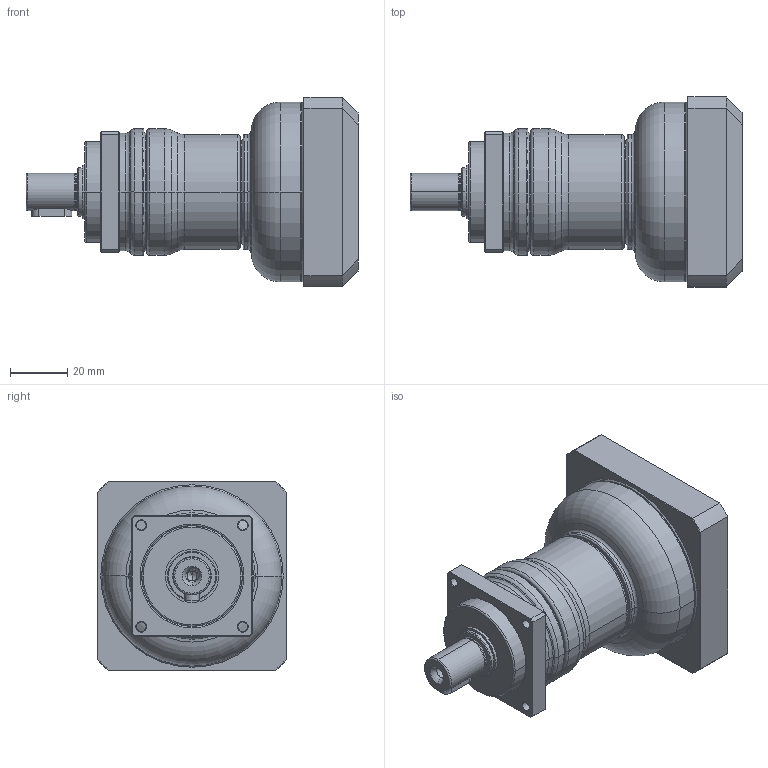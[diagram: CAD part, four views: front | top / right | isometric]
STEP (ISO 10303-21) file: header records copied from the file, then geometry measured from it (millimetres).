
FILE_DESCRIPTION((''),'2;1');
FILE_NAME('PA2-042_2ST_14-P0411300101_ASM','2016-05-06T',('d01943'),(''),'PRO/ENGINEER BY PARAMETRIC TECHNOLOGY CORPORATION, 2008410','PRO/ENGINEER BY PARAMETRIC TECHNOLOGY CORPORATION, 2008410','');
FILE_SCHEMA(('CONFIG_CONTROL_DESIGN'));
Length unit declared in the file: millimetre
Products named in the file (9): P1327100001; P0251100001; P1324100201; P0350100601; P0941102001; P0503300005; P0411300101; P1702300001; PA2-042_2ST_14-P0411300101_ASM
Assembly tree (8 placements, depth 2):
  PA2-042_2ST_14-P0411300101_ASM
    P1327100001
    P0251100001
    P1324100201
    P0350100601
    P0941102001
    P0503300005
    P0411300101
    P1702300001
Bounding box: 115.5 x 66 x 66 mm (x, y, z)
Volume: 147450.5 mm3; surface area: 56489.6 mm2
Topology: 8 solids, 8 shells, 476 faces, 1041 edges, 600 vertices
Faces by surface type: cone 148, cylinder 133, torus 92, plane 87, bspline 16
Entity records: 17653 total; most frequent: CARTESIAN_POINT 6941, DIRECTION 2428, ORIENTED_EDGE 2042, AXIS2_PLACEMENT_3D 1037, EDGE_CURVE 1021, VERTEX_POINT 600, CIRCLE 560, EDGE_LOOP 539
